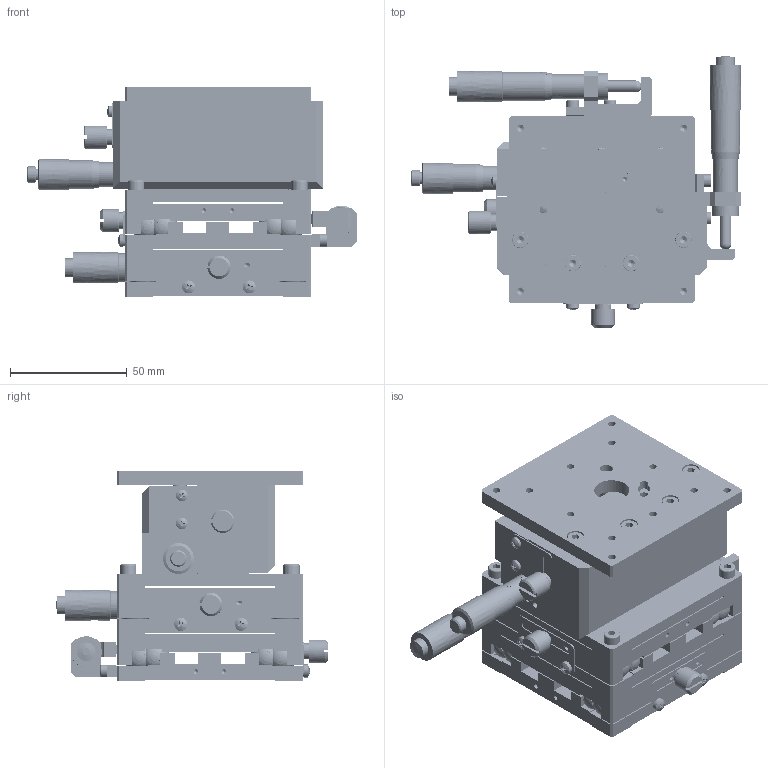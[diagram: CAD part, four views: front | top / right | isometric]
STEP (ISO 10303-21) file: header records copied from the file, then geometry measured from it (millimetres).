
FILE_DESCRIPTION (( 'STEP AP203' ), '1' );
FILE_NAME ('BLD80.STEP', '2024-07-27T06:33:20', ( 'Windows User' ), ( 'P R C' ), 'SwSTEP 2.0', 'SolidWorks 2024', '' );
FILE_SCHEMA (( 'CONFIG_CONTROL_DESIGN' ));
Products named in the file (1): BLD80
Bounding box: 141.52 x 116.3 x 90 mm (x, y, z)
Volume: 442580.1 mm3; surface area: 222115.7 mm2
Topology: 110 solids, 110 shells, 5206 faces, 12760 edges, 8176 vertices
Faces by surface type: plane 1964, bspline 1526, cylinder 1031, cone 589, torus 82, sphere 14
Full cylindrical faces by diameter (mm): 2.05 x11, 2.5 x56, 2.55 x40, 2.6 x2, 2.9 x1, 2.95 x18, 3 x61, 3.1 x4, 3.2 x4, 3.3 x55, 3.4 x46, 4 x9, 4.4 x40, 4.5 x22, 5 x11, 5.1 x1, 5.5 x55, 5.6 x4, 5.8 x4, 6 x49, 6.05 x1, 7 x12, 7.5 x5, 8 x20, 8.1 x2, 8.156 x4, 8.5 x2, 9 x2, 9.5 x6, 10 x3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
Entity records: 264888 total; most frequent: CARTESIAN_POINT 161899, ORIENTED_EDGE 22984, DIRECTION 15524, EDGE_CURVE 11492, VERTEX_POINT 7863, EDGE_LOOP 6977, AXIS2_PLACEMENT_3D 6000, FACE_OUTER_BOUND 5809
